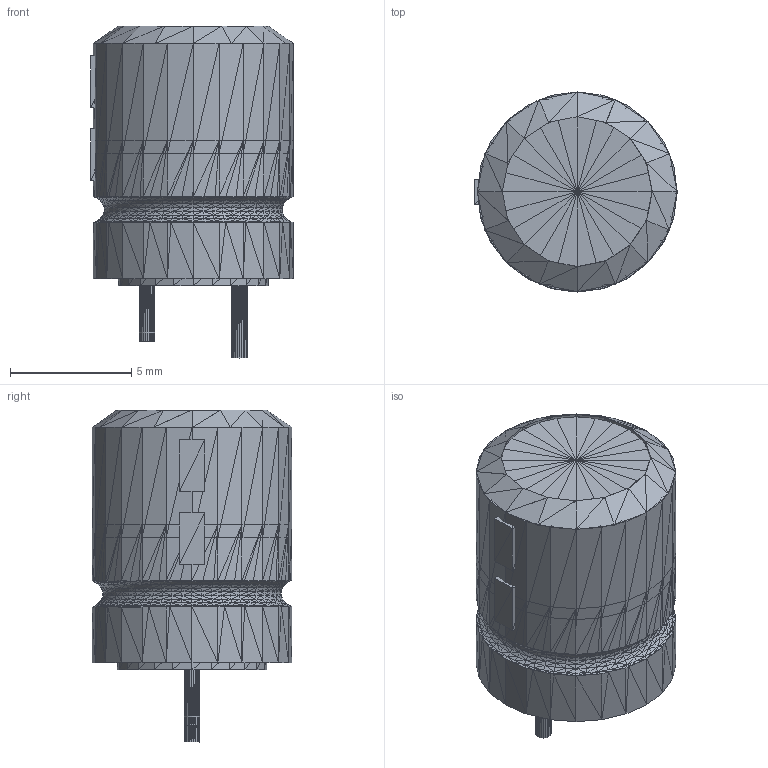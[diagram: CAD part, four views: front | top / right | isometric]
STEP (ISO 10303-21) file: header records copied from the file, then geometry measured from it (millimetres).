
FILE_DESCRIPTION(('HOOPS Exchange Step'),'2;1');
FILE_NAME('***.stp');
FILE_SCHEMA( ('AP242_MANAGED_MODEL_BASED_3D_ENGINEERING_MIM_LF {1 0 10303 442 1 1 4 }') );
Length unit declared in the file: inch
Products named in the file (10): RADPOLCAPMD2_2; RADPOLCAPMD2_3; RADPOLCAPMD2_4; RADPOLCAPMD2_5; RADPOLCAPMD2_6; RADPOLCAPMD2_7; RADPOLCAPMD2_8; RADPOLCAPMD2_9; RADPOLCAPMD2_10; RADPOLCAPMD2
Assembly tree (9 placements, depth 2):
  RADPOLCAPMD2
    RADPOLCAPMD2_2
    RADPOLCAPMD2_3
    RADPOLCAPMD2_4
    RADPOLCAPMD2_5
    RADPOLCAPMD2_6
    RADPOLCAPMD2_7
    RADPOLCAPMD2_8
    RADPOLCAPMD2_9
    RADPOLCAPMD2_10
Bounding box: 8.36 x 8.26 x 13.72 mm (x, y, z)
Surface area: 1466.5 mm2 (no closed solid volume)
Topology: 0 solids, 3884 shells, 3884 faces, 9384 edges, 8894 vertices
Faces by surface type: plane 3884
Entity records: 116470 total; most frequent: CARTESIAN_POINT 22182, DIRECTION 17192, ORIENTED_EDGE 11652, VECTOR 9384, LINE 9384, EDGE_CURVE 9384, VERTEX_POINT 8894, AXIS2_PLACEMENT_3D 3904
